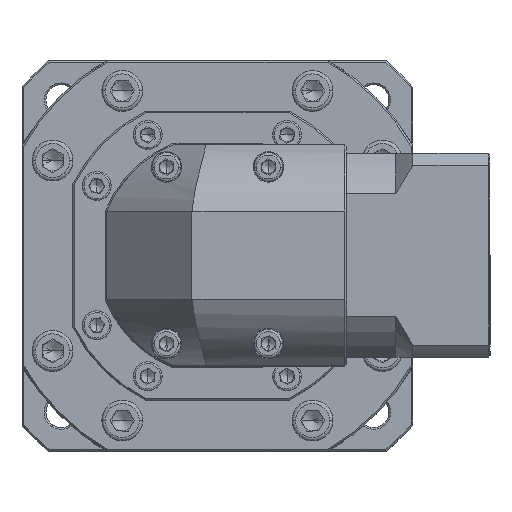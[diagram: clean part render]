
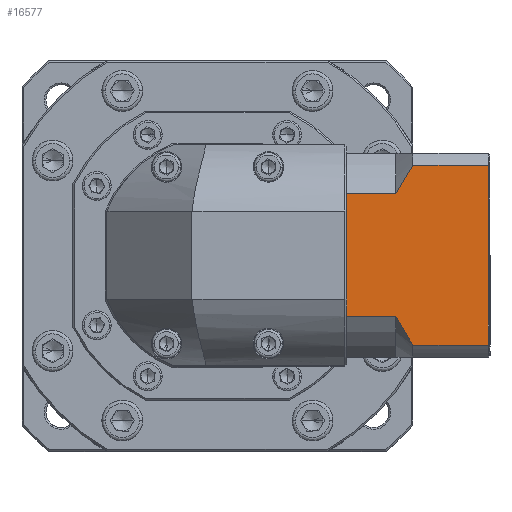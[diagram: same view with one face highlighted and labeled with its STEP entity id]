
A CAD part, top view. The second image highlights one B-rep face of the part: STEP entity #16577.
In plain terms, the highlighted planar face has unit normal (0, 0, 1).
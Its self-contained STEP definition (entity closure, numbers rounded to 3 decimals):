
#1018 = VECTOR ( 'NONE', #57600, 1000. ) ;
#1131 = CARTESIAN_POINT ( 'NONE',  ( 92.085, 136.059, 32.992 ) ) ;
#2417 = ORIENTED_EDGE ( 'NONE', *, *, #28900, .F. ) ;
#4150 = EDGE_CURVE ( 'NONE', #120753, #58175, #133867, .T. ) ;
#4797 = EDGE_CURVE ( 'NONE', #104593, #75912, #130195, .T. ) ;
#8171 = DIRECTION ( 'NONE',  ( 0., -1., 0. ) ) ;
#8356 = EDGE_CURVE ( 'NONE', #121807, #25129, #37628, .T. ) ;
#9718 = CARTESIAN_POINT ( 'NONE',  ( 97.085, 91.574, 32.992 ) ) ;
#15841 = LINE ( 'NONE', #68114, #42558 ) ;
#16577 = ADVANCED_FACE ( 'NONE', ( #86768 ), #79292, .F. ) ;
#18482 = B_SPLINE_CURVE_WITH_KNOTS ( 'NONE', 3,
 ( #116045, #92165, #137388, #115066, #46806, #104100 ),
 .UNSPECIFIED., .F., .F.,
 ( 4, 2, 4 ),
 ( 0.1, 0.104, 0.109 ),
 .UNSPECIFIED. ) ;
#19778 = VECTOR ( 'NONE', #130861, 1000. ) ;
#20589 = CARTESIAN_POINT ( 'NONE',  ( 97.085, 144.489, 32.992 ) ) ;
#23595 = DIRECTION ( 'NONE',  ( 1., 0., 0. ) ) ;
#24598 = DIRECTION ( 'NONE',  ( 0., -1., 0. ) ) ;
#25129 = VERTEX_POINT ( 'NONE', #97948 ) ;
#28900 = EDGE_CURVE ( 'NONE', #108210, #130077, #147011, .T. ) ;
#29069 = CARTESIAN_POINT ( 'NONE',  ( 92.085, 100.003, 32.992 ) ) ;
#29695 = ORIENTED_EDGE ( 'NONE', *, *, #4797, .F. ) ;
#30757 = VECTOR ( 'NONE', #74761, 1000. ) ;
#31262 = LINE ( 'NONE', #116333, #1018 ) ;
#31854 = ORIENTED_EDGE ( 'NONE', *, *, #8356, .F. ) ;
#33182 = LINE ( 'NONE', #47923, #57982 ) ;
#33537 = EDGE_LOOP ( 'NONE', ( #2417, #105779, #29695, #122972, #31854, #143928, #92022, #45477, #132515, #100555 ) ) ;
#36092 = CARTESIAN_POINT ( 'NONE',  ( 77.585, 100.003, 32.992 ) ) ;
#36787 = DIRECTION ( 'NONE',  ( 0., 1., 0. ) ) ;
#37092 = CARTESIAN_POINT ( 'NONE',  ( 97.085, 144.489, 32.992 ) ) ;
#37543 = DIRECTION ( 'NONE',  ( 0., 0., -1. ) ) ;
#37628 = LINE ( 'NONE', #1131, #67834 ) ;
#38425 = VECTOR ( 'NONE', #8171, 1000. ) ;
#38889 = VERTEX_POINT ( 'NONE', #29069 ) ;
#41474 = DIRECTION ( 'NONE',  ( -1., 0., 0. ) ) ;
#42558 = VECTOR ( 'NONE', #36787, 1000. ) ;
#43007 = CARTESIAN_POINT ( 'NONE',  ( 92.085, 136.059, 32.992 ) ) ;
#44490 = EDGE_CURVE ( 'NONE', #121807, #59648, #33182, .T. ) ;
#45477 = ORIENTED_EDGE ( 'NONE', *, *, #4150, .T. ) ;
#46806 = CARTESIAN_POINT ( 'NONE',  ( 96.184, 92.936, 32.992 ) ) ;
#47923 = CARTESIAN_POINT ( 'NONE',  ( 77.585, 148.031, 32.992 ) ) ;
#49156 = VECTOR ( 'NONE', #41474, 1000. ) ;
#52788 = CARTESIAN_POINT ( 'NONE',  ( 119.285, 144.489, 32.992 ) ) ;
#54504 = CARTESIAN_POINT ( 'NONE',  ( 77.585, 135.068, 32.992 ) ) ;
#57600 = DIRECTION ( 'NONE',  ( -1., 0., 0. ) ) ;
#57982 = VECTOR ( 'NONE', #24598, 1000. ) ;
#58175 = VERTEX_POINT ( 'NONE', #36092 ) ;
#59648 = VERTEX_POINT ( 'NONE', #54504 ) ;
#62888 = EDGE_CURVE ( 'NONE', #108210, #75912, #15841, .T. ) ;
#67834 = VECTOR ( 'NONE', #68285, 1000. ) ;
#68114 = CARTESIAN_POINT ( 'NONE',  ( 119.285, 148.031, 32.992 ) ) ;
#68285 = DIRECTION ( 'NONE',  ( 1., 0., 0. ) ) ;
#74761 = DIRECTION ( 'NONE',  ( 0., -1., 0. ) ) ;
#75912 = VERTEX_POINT ( 'NONE', #52788 ) ;
#76214 = CARTESIAN_POINT ( 'NONE',  ( 92.085, 91.574, 32.992 ) ) ;
#77772 = CARTESIAN_POINT ( 'NONE',  ( 95.312, 141.75, 32.992 ) ) ;
#79292 = PLANE ( 'NONE',  #110992 ) ;
#81312 = CARTESIAN_POINT ( 'NONE',  ( 77.585, 136.059, 32.992 ) ) ;
#81446 = EDGE_CURVE ( 'NONE', #38889, #58175, #31262, .T. ) ;
#82771 = CARTESIAN_POINT ( 'NONE',  ( 119.785, 148.031, 32.992 ) ) ;
#83932 = CARTESIAN_POINT ( 'NONE',  ( 77.585, 100.994, 32.992 ) ) ;
#86768 = FACE_OUTER_BOUND ( 'NONE', #33537, .T. ) ;
#87300 = CARTESIAN_POINT ( 'NONE',  ( 92.833, 137.511, 32.992 ) ) ;
#89842 = EDGE_CURVE ( 'NONE', #59648, #120753, #129233, .T. ) ;
#91551 = EDGE_CURVE ( 'NONE', #104593, #25129, #124607, .T. ) ;
#92022 = ORIENTED_EDGE ( 'NONE', *, *, #89842, .T. ) ;
#92165 = CARTESIAN_POINT ( 'NONE',  ( 92.835, 98.547, 32.992 ) ) ;
#97948 = CARTESIAN_POINT ( 'NONE',  ( 92.085, 136.059, 32.992 ) ) ;
#100555 = ORIENTED_EDGE ( 'NONE', *, *, #120307, .T. ) ;
#104100 = CARTESIAN_POINT ( 'NONE',  ( 97.085, 91.574, 32.992 ) ) ;
#104593 = VERTEX_POINT ( 'NONE', #37092 ) ;
#105779 = ORIENTED_EDGE ( 'NONE', *, *, #62888, .T. ) ;
#108210 = VERTEX_POINT ( 'NONE', #132970 ) ;
#108733 = CARTESIAN_POINT ( 'NONE',  ( 77.585, 148.031, 32.992 ) ) ;
#110992 = AXIS2_PLACEMENT_3D ( 'NONE', #82771, #37543, #23595 ) ;
#111692 = CARTESIAN_POINT ( 'NONE',  ( 96.186, 143.129, 32.992 ) ) ;
#115066 = CARTESIAN_POINT ( 'NONE',  ( 95.31, 94.316, 32.992 ) ) ;
#116045 = CARTESIAN_POINT ( 'NONE',  ( 92.085, 100.003, 32.992 ) ) ;
#116333 = CARTESIAN_POINT ( 'NONE',  ( 92.085, 100.003, 32.992 ) ) ;
#120307 = EDGE_CURVE ( 'NONE', #38889, #130077, #18482, .T. ) ;
#120753 = VERTEX_POINT ( 'NONE', #83932 ) ;
#121807 = VERTEX_POINT ( 'NONE', #81312 ) ;
#122972 = ORIENTED_EDGE ( 'NONE', *, *, #91551, .T. ) ;
#124607 = B_SPLINE_CURVE_WITH_KNOTS ( 'NONE', 3,
 ( #20589, #111692, #77772, #146370, #87300, #43007 ),
 .UNSPECIFIED., .F., .F.,
 ( 4, 2, 4 ),
 ( 0.052, 0.057, 0.062 ),
 .UNSPECIFIED. ) ;
#129233 = LINE ( 'NONE', #108733, #38425 ) ;
#130077 = VERTEX_POINT ( 'NONE', #9718 ) ;
#130195 = LINE ( 'NONE', #141767, #19778 ) ;
#130861 = DIRECTION ( 'NONE',  ( 1., 0., 0. ) ) ;
#132515 = ORIENTED_EDGE ( 'NONE', *, *, #81446, .F. ) ;
#132970 = CARTESIAN_POINT ( 'NONE',  ( 119.285, 91.574, 32.992 ) ) ;
#133867 = LINE ( 'NONE', #142916, #30757 ) ;
#137388 = CARTESIAN_POINT ( 'NONE',  ( 93.636, 97.121, 32.992 ) ) ;
#141767 = CARTESIAN_POINT ( 'NONE',  ( 92.085, 144.489, 32.992 ) ) ;
#142916 = CARTESIAN_POINT ( 'NONE',  ( 77.585, 148.031, 32.992 ) ) ;
#143928 = ORIENTED_EDGE ( 'NONE', *, *, #44490, .T. ) ;
#146370 = CARTESIAN_POINT ( 'NONE',  ( 93.637, 138.942, 32.992 ) ) ;
#147011 = LINE ( 'NONE', #76214, #49156 ) ;
